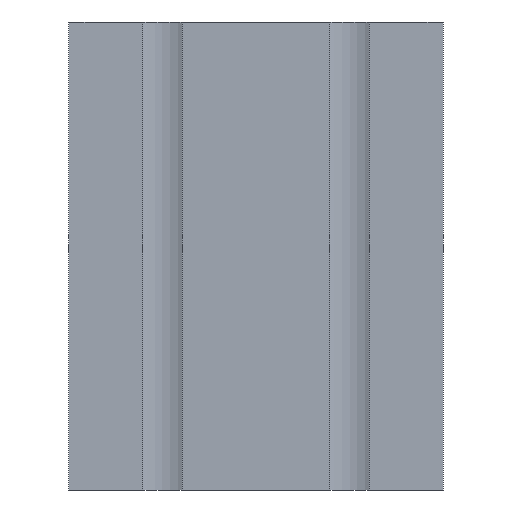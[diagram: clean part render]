
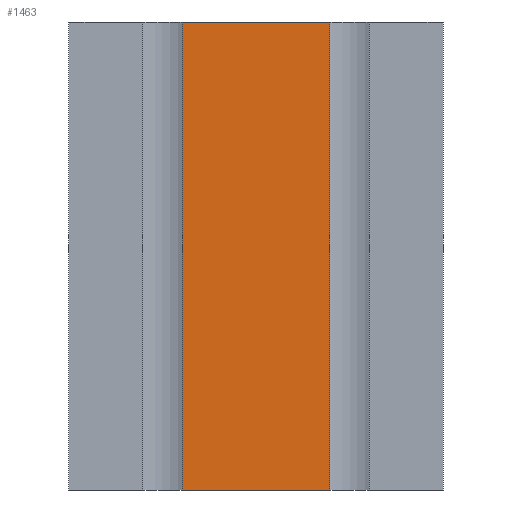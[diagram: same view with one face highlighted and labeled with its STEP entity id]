
A CAD part, front view. The second image highlights one B-rep face of the part: STEP entity #1463.
In plain terms, the highlighted planar face has unit normal (0, -1, 0).
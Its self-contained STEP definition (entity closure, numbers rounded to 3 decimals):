
#314=ORIENTED_EDGE('',*,*,#628,.F.);
#315=ORIENTED_EDGE('',*,*,#629,.F.);
#316=ORIENTED_EDGE('',*,*,#630,.T.);
#317=ORIENTED_EDGE('',*,*,#545,.F.);
#545=EDGE_CURVE('',#737,#738,#873,.T.);
#628=EDGE_CURVE('',#788,#737,#950,.T.);
#629=EDGE_CURVE('',#789,#788,#951,.T.);
#630=EDGE_CURVE('',#789,#738,#952,.T.);
#737=VERTEX_POINT('',#2137);
#738=VERTEX_POINT('',#2139);
#788=VERTEX_POINT('',#2303);
#789=VERTEX_POINT('',#2307);
#873=LINE('',#2138,#1053);
#950=LINE('',#2304,#1130);
#951=LINE('',#2306,#1131);
#952=LINE('',#2308,#1132);
#1053=VECTOR('',#1730,1000.);
#1130=VECTOR('',#1883,1000.);
#1131=VECTOR('',#1886,1000.);
#1132=VECTOR('',#1887,1000.);
#1232=EDGE_LOOP('',(#314,#315,#316,#317));
#1324=FACE_BOUND('',#1232,.T.);
#1393=PLANE('',#1570);
#1463=ADVANCED_FACE('',(#1324),#1393,.T.);
#1570=AXIS2_PLACEMENT_3D('',#2305,#1884,#1885);
#1730=DIRECTION('',(-1.,0.,0.));
#1883=DIRECTION('',(0.,0.,-1.));
#1884=DIRECTION('',(0.,-1.,0.));
#1885=DIRECTION('',(1.,0.,0.));
#1886=DIRECTION('',(1.,0.,0.));
#1887=DIRECTION('',(0.,0.,-1.));
#2137=CARTESIAN_POINT('',(15.8,-20.,-50.));
#2138=CARTESIAN_POINT('',(15.8,-20.,-50.));
#2139=CARTESIAN_POINT('',(-15.8,-20.,-50.));
#2303=CARTESIAN_POINT('',(15.8,-20.,50.));
#2304=CARTESIAN_POINT('',(15.8,-20.,0.));
#2305=CARTESIAN_POINT('',(-15.8,-20.,0.));
#2306=CARTESIAN_POINT('',(0.,-20.,50.));
#2307=CARTESIAN_POINT('',(-15.8,-20.,50.));
#2308=CARTESIAN_POINT('',(-15.8,-20.,0.));
